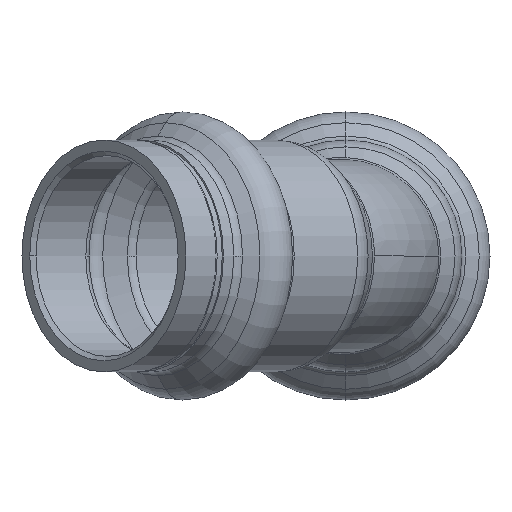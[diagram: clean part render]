
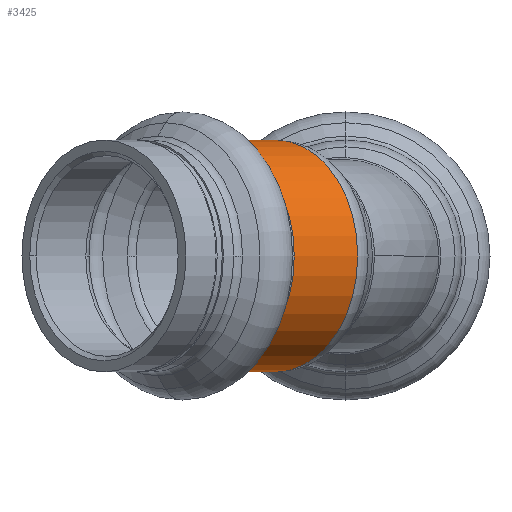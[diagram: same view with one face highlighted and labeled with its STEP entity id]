
A CAD part, left-side view. The second image highlights one B-rep face of the part: STEP entity #3425.
In plain terms, the highlighted cylindrical face has radius 10.5 mm (diameter 21 mm), a partial arc.
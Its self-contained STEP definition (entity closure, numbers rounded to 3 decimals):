
#261 = AXIS2_PLACEMENT_3D ( 'NONE', #1711, #1723, #1732 ) ;
#268 = ORIENTED_EDGE ( 'NONE', *, *, #894, .F. ) ;
#369 = LINE ( 'NONE', #3794, #2764 ) ;
#371 = VERTEX_POINT ( 'NONE', #568 ) ;
#568 = CARTESIAN_POINT ( 'NONE',  ( -6.364, 6.364, 10.5 ) ) ;
#754 = CARTESIAN_POINT ( 'NONE',  ( -19.533, 4.683, 0. ) ) ;
#817 = ORIENTED_EDGE ( 'NONE', *, *, #2713, .T. ) ;
#828 = ORIENTED_EDGE ( 'NONE', *, *, #2728, .T. ) ;
#894 = EDGE_CURVE ( 'NONE', #371, #2801, #3844, .T. ) ;
#1081 = CARTESIAN_POINT ( 'NONE',  ( -6.364, 6.364, -10.5 ) ) ;
#1164 = AXIS2_PLACEMENT_3D ( 'NONE', #3656, #3658, #3633 ) ;
#1343 = ORIENTED_EDGE ( 'NONE', *, *, #2235, .T. ) ;
#1675 = DIRECTION ( 'NONE',  ( 0., 0., -1. ) ) ;
#1691 = DIRECTION ( 'NONE',  ( 0.707, -0.707, 0. ) ) ;
#1695 = CARTESIAN_POINT ( 'NONE',  ( -6.364, 6.364, 0. ) ) ;
#1711 = CARTESIAN_POINT ( 'NONE',  ( -12.108, 12.108, 0. ) ) ;
#1723 = DIRECTION ( 'NONE',  ( 0.707, -0.707, 0. ) ) ;
#1732 = DIRECTION ( 'NONE',  ( 0.707, 0.707, 0. ) ) ;
#1926 = VERTEX_POINT ( 'NONE', #754 ) ;
#2098 = VECTOR ( 'NONE', #3747, 1000. ) ;
#2235 = EDGE_CURVE ( 'NONE', #1926, #2500, #3338, .T. ) ;
#2500 = VERTEX_POINT ( 'NONE', #2662 ) ;
#2536 = EDGE_LOOP ( 'NONE', ( #268, #817, #828, #1343, #3675 ) ) ;
#2662 = CARTESIAN_POINT ( 'NONE',  ( -12.108, 12.108, -10.5 ) ) ;
#2713 = EDGE_CURVE ( 'NONE', #371, #3232, #3611, .T. ) ;
#2728 = EDGE_CURVE ( 'NONE', #3232, #1926, #2845, .T. ) ;
#2736 = EDGE_CURVE ( 'NONE', #2801, #2500, #369, .T. ) ;
#2764 = VECTOR ( 'NONE', #3789, 1000. ) ;
#2801 = VERTEX_POINT ( 'NONE', #1081 ) ;
#2845 = CIRCLE ( 'NONE', #3160, 10.5 ) ;
#3150 = CYLINDRICAL_SURFACE ( 'NONE', #1164, 10.5 ) ;
#3160 = AXIS2_PLACEMENT_3D ( 'NONE', #3843, #3857, #3860 ) ;
#3227 = CARTESIAN_POINT ( 'NONE',  ( -12.108, 12.108, 10.5 ) ) ;
#3232 = VERTEX_POINT ( 'NONE', #3227 ) ;
#3241 = FACE_OUTER_BOUND ( 'NONE', #2536, .T. ) ;
#3338 = CIRCLE ( 'NONE', #261, 10.5 ) ;
#3425 = ADVANCED_FACE ( 'NONE', ( #3241 ), #3150, .T. ) ;
#3574 = AXIS2_PLACEMENT_3D ( 'NONE', #1695, #1691, #1675 ) ;
#3611 = LINE ( 'NONE', #3700, #2098 ) ;
#3633 = DIRECTION ( 'NONE',  ( 0., 0., -1. ) ) ;
#3656 = CARTESIAN_POINT ( 'NONE',  ( -25.175, 25.175, 0. ) ) ;
#3658 = DIRECTION ( 'NONE',  ( -0.707, 0.707, 0. ) ) ;
#3675 = ORIENTED_EDGE ( 'NONE', *, *, #2736, .F. ) ;
#3700 = CARTESIAN_POINT ( 'NONE',  ( -25.175, 25.175, 10.5 ) ) ;
#3747 = DIRECTION ( 'NONE',  ( -0.707, 0.707, 0. ) ) ;
#3789 = DIRECTION ( 'NONE',  ( -0.707, 0.707, 0. ) ) ;
#3794 = CARTESIAN_POINT ( 'NONE',  ( -25.175, 25.175, -10.5 ) ) ;
#3843 = CARTESIAN_POINT ( 'NONE',  ( -12.108, 12.108, 0. ) ) ;
#3844 = CIRCLE ( 'NONE', #3574, 10.5 ) ;
#3857 = DIRECTION ( 'NONE',  ( 0.707, -0.707, 0. ) ) ;
#3860 = DIRECTION ( 'NONE',  ( 0.707, 0.707, 0. ) ) ;
